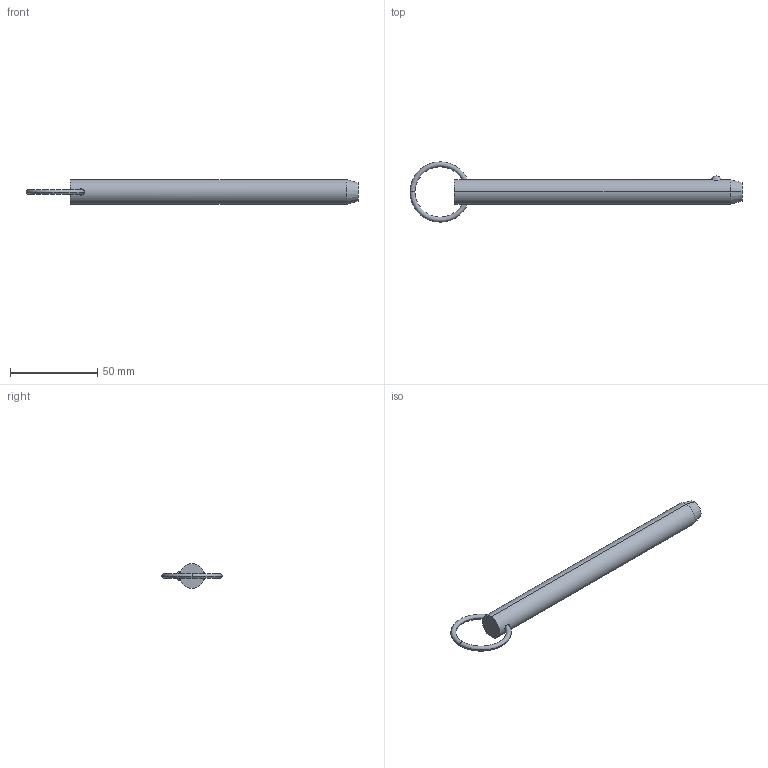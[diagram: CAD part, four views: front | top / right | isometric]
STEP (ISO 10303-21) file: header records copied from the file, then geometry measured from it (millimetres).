
FILE_DESCRIPTION (( 'STEP AP203' ), '1' );
FILE_NAME ('33010.W5655.step', '2024-11-01T10:40:50', ( '' ), ( '' ), 'SwSTEP 2.0', 'SolidWorks 2019', '' );
FILE_SCHEMA (( 'CONFIG_CONTROL_DESIGN' ));
Length unit declared in the file: millimetre
Products named in the file (3): Part1_33010.W5655; 33010.W5655; Part2_33010.W5655
Assembly tree (2 placements, depth 2):
  33010.W5655
    Part1_33010.W5655
    Part2_33010.W5655
Bounding box: 190.6 x 34.59 x 14.22 mm (x, y, z)
Volume: 26494.6 mm3; surface area: 8642.6 mm2
Topology: 2 solids, 2 shells, 16 faces, 31 edges, 18 vertices
Faces by surface type: torus 8, sphere 2, cone 2, cylinder 2, plane 2
Entity records: 875 total; most frequent: CARTESIAN_POINT 232, DIRECTION 88, ORIENTED_EDGE 62, AXIS2_PLACEMENT_3D 42, EDGE_CURVE 31, PERSON_AND_ORGANIZATION 26, CIRCLE 21, LOCAL_TIME 19
